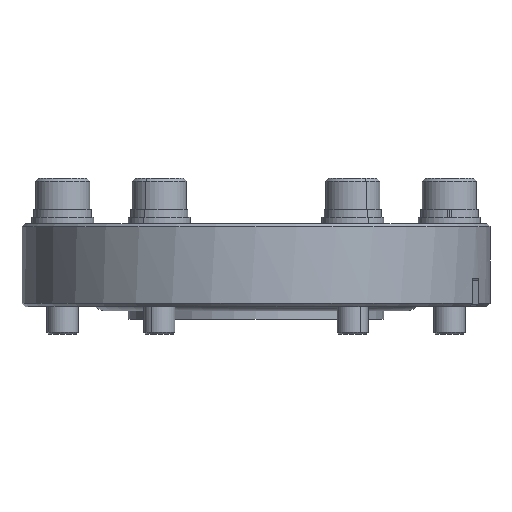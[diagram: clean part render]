
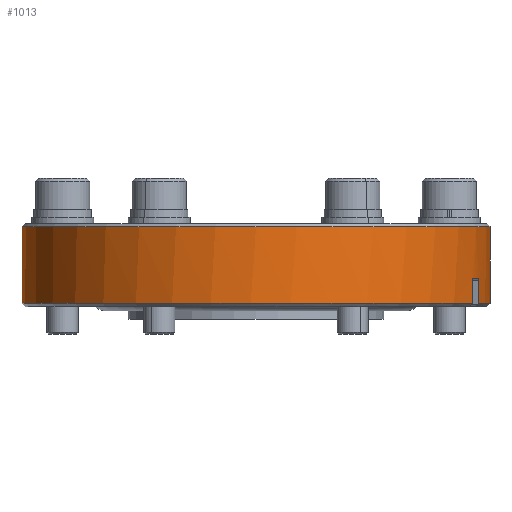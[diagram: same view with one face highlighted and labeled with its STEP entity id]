
A CAD part, left-side view. The second image highlights one B-rep face of the part: STEP entity #1013.
In plain terms, the highlighted cylindrical face has radius 37.5 mm (diameter 75 mm), a partial arc.
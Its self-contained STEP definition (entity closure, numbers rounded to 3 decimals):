
#119 = CARTESIAN_POINT ( 'NONE',  ( -11.692, 4.5, 35.631 ) ) ;
#223 = ORIENTED_EDGE ( 'NONE', *, *, #703, .F. ) ;
#248 = CARTESIAN_POINT ( 'NONE',  ( -11.406, 4.279, 35.723 ) ) ;
#254 = CARTESIAN_POINT ( 'NONE',  ( 0., 0.5, 37.5 ) ) ;
#357 = EDGE_CURVE ( 'NONE', #2207, #2263, #3829, .T. ) ;
#378 = CIRCLE ( 'NONE', #2600, 37.5 ) ;
#406 = CARTESIAN_POINT ( 'NONE',  ( -14.225, 4.2, 34.697 ) ) ;
#555 = DIRECTION ( 'NONE',  ( 0., 1., 0. ) ) ;
#570 = DIRECTION ( 'NONE',  ( 0., 1., 0. ) ) ;
#635 = DIRECTION ( 'NONE',  ( 0., 0., 1. ) ) ;
#703 = EDGE_CURVE ( 'NONE', #2040, #1403, #1560, .T. ) ;
#731 = CARTESIAN_POINT ( 'NONE',  ( -14.225, 4.279, 34.697 ) ) ;
#736 = CARTESIAN_POINT ( 'NONE',  ( -11.406, 4.2, 35.723 ) ) ;
#792 = ORIENTED_EDGE ( 'NONE', *, *, #2659, .T. ) ;
#831 = ORIENTED_EDGE ( 'NONE', *, *, #3499, .T. ) ;
#971 = CARTESIAN_POINT ( 'NONE',  ( 0., 0., -37.5 ) ) ;
#1013 = ADVANCED_FACE ( 'NONE', ( #3433 ), #2255, .T. ) ;
#1065 = CARTESIAN_POINT ( 'NONE',  ( -14.225, 0.5, 34.697 ) ) ;
#1072 = DIRECTION ( 'NONE',  ( 0., -1., 0. ) ) ;
#1247 = CIRCLE ( 'NONE', #1664, 37.5 ) ;
#1284 = CIRCLE ( 'NONE', #3568, 37.5 ) ;
#1289 = VERTEX_POINT ( 'NONE', #119 ) ;
#1354 = ORIENTED_EDGE ( 'NONE', *, *, #3890, .T. ) ;
#1403 = VERTEX_POINT ( 'NONE', #736 ) ;
#1473 = CARTESIAN_POINT ( 'NONE',  ( 0., 0.5, 0. ) ) ;
#1496 = B_SPLINE_CURVE_WITH_KNOTS ( 'NONE', 3,
 ( #406, #731, #2635, #2923, #2961, #3236 ),
 .UNSPECIFIED., .F., .F.,
 ( 4, 2, 4 ),
 ( 0., 0., 0. ),
 .UNSPECIFIED. ) ;
#1507 = DIRECTION ( 'NONE',  ( 0., 0., 1. ) ) ;
#1515 = CARTESIAN_POINT ( 'NONE',  ( -11.437, 4.357, 35.713 ) ) ;
#1554 = CIRCLE ( 'NONE', #2314, 37.5 ) ;
#1560 = LINE ( 'NONE', #3275, #3238 ) ;
#1664 = AXIS2_PLACEMENT_3D ( 'NONE', #4051, #2787, #635 ) ;
#1680 = CARTESIAN_POINT ( 'NONE',  ( -11.406, 0.5, 35.723 ) ) ;
#1698 = ORIENTED_EDGE ( 'NONE', *, *, #3928, .T. ) ;
#1717 = VECTOR ( 'NONE', #2860, 1000. ) ;
#1735 = EDGE_CURVE ( 'NONE', #2207, #3753, #1247, .T. ) ;
#1784 = CARTESIAN_POINT ( 'NONE',  ( -14.225, 4.2, 34.697 ) ) ;
#1798 = CARTESIAN_POINT ( 'NONE',  ( 0., 4.5, 0. ) ) ;
#1826 = VERTEX_POINT ( 'NONE', #3748 ) ;
#1860 = ORIENTED_EDGE ( 'NONE', *, *, #3722, .T. ) ;
#1888 = ORIENTED_EDGE ( 'NONE', *, *, #357, .F. ) ;
#1955 = VECTOR ( 'NONE', #555, 1000. ) ;
#1985 = DIRECTION ( 'NONE',  ( 0., 0., -1. ) ) ;
#2040 = VERTEX_POINT ( 'NONE', #1680 ) ;
#2146 = CARTESIAN_POINT ( 'NONE',  ( -11.543, 4.468, 35.679 ) ) ;
#2148 = CARTESIAN_POINT ( 'NONE',  ( 0., 0.5, 0. ) ) ;
#2156 = DIRECTION ( 'NONE',  ( 0., -1., 0. ) ) ;
#2207 = VERTEX_POINT ( 'NONE', #3314 ) ;
#2255 = CYLINDRICAL_SURFACE ( 'NONE', #2690, 37.5 ) ;
#2263 = VERTEX_POINT ( 'NONE', #254 ) ;
#2308 = DIRECTION ( 'NONE',  ( 0., 1., 0. ) ) ;
#2311 = LINE ( 'NONE', #971, #1717 ) ;
#2314 = AXIS2_PLACEMENT_3D ( 'NONE', #2148, #570, #3681 ) ;
#2462 = CARTESIAN_POINT ( 'NONE',  ( -11.406, 4.2, 35.723 ) ) ;
#2600 = AXIS2_PLACEMENT_3D ( 'NONE', #1798, #2744, #1507 ) ;
#2631 = CARTESIAN_POINT ( 'NONE',  ( 0., 0., 0. ) ) ;
#2633 = CARTESIAN_POINT ( 'NONE',  ( -14.225, 0., 34.697 ) ) ;
#2635 = CARTESIAN_POINT ( 'NONE',  ( -14.195, 4.357, 34.71 ) ) ;
#2659 = EDGE_CURVE ( 'NONE', #3393, #3007, #1284, .T. ) ;
#2662 = VERTEX_POINT ( 'NONE', #1784 ) ;
#2690 = AXIS2_PLACEMENT_3D ( 'NONE', #2631, #1072, #1985 ) ;
#2700 = VECTOR ( 'NONE', #2156, 1000. ) ;
#2712 = DIRECTION ( 'NONE',  ( 0., 0., -1. ) ) ;
#2744 = DIRECTION ( 'NONE',  ( 0., -1., 0. ) ) ;
#2787 = DIRECTION ( 'NONE',  ( 0., -1., 0. ) ) ;
#2860 = DIRECTION ( 'NONE',  ( 0., -1., 0. ) ) ;
#2923 = CARTESIAN_POINT ( 'NONE',  ( -14.092, 4.467, 34.751 ) ) ;
#2961 = CARTESIAN_POINT ( 'NONE',  ( -14.02, 4.5, 34.781 ) ) ;
#3007 = VERTEX_POINT ( 'NONE', #1065 ) ;
#3010 = ORIENTED_EDGE ( 'NONE', *, *, #3187, .T. ) ;
#3037 = CARTESIAN_POINT ( 'NONE',  ( 0., 0., 37.5 ) ) ;
#3187 = EDGE_CURVE ( 'NONE', #3753, #3393, #2311, .T. ) ;
#3236 = CARTESIAN_POINT ( 'NONE',  ( -13.947, 4.5, 34.81 ) ) ;
#3238 = VECTOR ( 'NONE', #2308, 1000. ) ;
#3275 = CARTESIAN_POINT ( 'NONE',  ( -11.406, 0., 35.723 ) ) ;
#3314 = CARTESIAN_POINT ( 'NONE',  ( 0., 12.8, 37.5 ) ) ;
#3393 = VERTEX_POINT ( 'NONE', #3496 ) ;
#3414 = B_SPLINE_CURVE_WITH_KNOTS ( 'NONE', 3,
 ( #3786, #4020, #2146, #1515, #248, #2462 ),
 .UNSPECIFIED., .F., .F.,
 ( 4, 2, 4 ),
 ( 0., 0., 0. ),
 .UNSPECIFIED. ) ;
#3433 = FACE_OUTER_BOUND ( 'NONE', #4064, .T. ) ;
#3496 = CARTESIAN_POINT ( 'NONE',  ( 0., 0.5, -37.5 ) ) ;
#3499 = EDGE_CURVE ( 'NONE', #2662, #1826, #1496, .T. ) ;
#3554 = ORIENTED_EDGE ( 'NONE', *, *, #3699, .F. ) ;
#3568 = AXIS2_PLACEMENT_3D ( 'NONE', #1473, #3618, #2712 ) ;
#3618 = DIRECTION ( 'NONE',  ( 0., 1., 0. ) ) ;
#3681 = DIRECTION ( 'NONE',  ( 0., 0., -1. ) ) ;
#3699 = EDGE_CURVE ( 'NONE', #1289, #1826, #378, .T. ) ;
#3722 = EDGE_CURVE ( 'NONE', #1289, #1403, #3414, .T. ) ;
#3748 = CARTESIAN_POINT ( 'NONE',  ( -13.947, 4.5, 34.81 ) ) ;
#3753 = VERTEX_POINT ( 'NONE', #4033 ) ;
#3786 = CARTESIAN_POINT ( 'NONE',  ( -11.692, 4.5, 35.631 ) ) ;
#3788 = LINE ( 'NONE', #2633, #1955 ) ;
#3790 = ORIENTED_EDGE ( 'NONE', *, *, #1735, .T. ) ;
#3829 = LINE ( 'NONE', #3037, #2700 ) ;
#3890 = EDGE_CURVE ( 'NONE', #3007, #2662, #3788, .T. ) ;
#3928 = EDGE_CURVE ( 'NONE', #2040, #2263, #1554, .T. ) ;
#4020 = CARTESIAN_POINT ( 'NONE',  ( -11.616, 4.5, 35.656 ) ) ;
#4033 = CARTESIAN_POINT ( 'NONE',  ( 0., 12.8, -37.5 ) ) ;
#4051 = CARTESIAN_POINT ( 'NONE',  ( 0., 12.8, 0. ) ) ;
#4064 = EDGE_LOOP ( 'NONE', ( #1888, #3790, #3010, #792, #1354, #831, #3554, #1860, #223, #1698 ) ) ;
